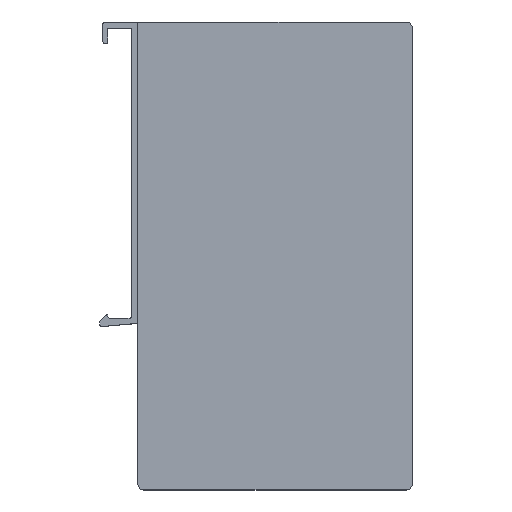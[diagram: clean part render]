
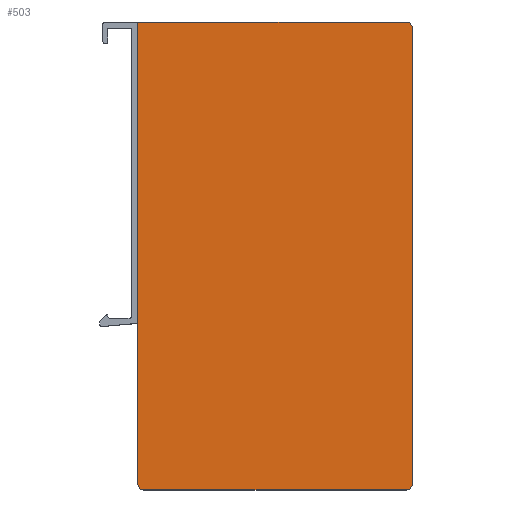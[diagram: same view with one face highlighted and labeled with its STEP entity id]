
A CAD part, top view. The second image highlights one B-rep face of the part: STEP entity #503.
In plain terms, the highlighted planar face has unit normal (0, 0, 1).
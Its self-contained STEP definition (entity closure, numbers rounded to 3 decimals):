
#40 = CARTESIAN_POINT ( 'NONE',  ( 91.999, -73.648, 2. ) ) ;
#67 = DIRECTION ( 'NONE',  ( -1., 0., 0. ) ) ;
#73 = CIRCLE ( 'NONE', #151, 2.001 ) ;
#84 = CARTESIAN_POINT ( 'NONE',  ( 2.001, 77.649, 2. ) ) ;
#95 = LINE ( 'NONE', #666, #933 ) ;
#107 = DIRECTION ( 'NONE',  ( 0., -1., 0. ) ) ;
#116 = ORIENTED_EDGE ( 'NONE', *, *, #486, .T. ) ;
#131 = AXIS2_PLACEMENT_3D ( 'NONE', #1033, #364, #833 ) ;
#133 = CARTESIAN_POINT ( 'NONE',  ( 91.999, 75.648, 2. ) ) ;
#137 = CARTESIAN_POINT ( 'NONE',  ( 2.001, -73.648, 2. ) ) ;
#151 = AXIS2_PLACEMENT_3D ( 'NONE', #1014, #338, #67 ) ;
#156 = AXIS2_PLACEMENT_3D ( 'NONE', #407, #1157, #501 ) ;
#205 = VERTEX_POINT ( 'NONE', #887 ) ;
#207 = CIRCLE ( 'NONE', #484, 2.001 ) ;
#246 = ORIENTED_EDGE ( 'NONE', *, *, #380, .T. ) ;
#248 = CARTESIAN_POINT ( 'NONE',  ( 4.002, -75.649, 2. ) ) ;
#278 = EDGE_CURVE ( 'NONE', #654, #811, #1154, .T. ) ;
#303 = EDGE_CURVE ( 'NONE', #1155, #771, #425, .T. ) ;
#307 = CARTESIAN_POINT ( 'NONE',  ( 2.001, -21.084, 2. ) ) ;
#332 = VERTEX_POINT ( 'NONE', #971 ) ;
#338 = DIRECTION ( 'NONE',  ( 0., 0., 1. ) ) ;
#364 = DIRECTION ( 'NONE',  ( 0., 0., -1. ) ) ;
#380 = EDGE_CURVE ( 'NONE', #811, #618, #73, .T. ) ;
#389 = DIRECTION ( 'NONE',  ( 0., -1., 0. ) ) ;
#405 = ORIENTED_EDGE ( 'NONE', *, *, #750, .T. ) ;
#407 = CARTESIAN_POINT ( 'NONE',  ( 89.998, -73.648, 2. ) ) ;
#416 = ORIENTED_EDGE ( 'NONE', *, *, #1039, .T. ) ;
#425 = LINE ( 'NONE', #133, #642 ) ;
#458 = CARTESIAN_POINT ( 'NONE',  ( 89.998, -75.649, 2. ) ) ;
#475 = PLANE ( 'NONE',  #131 ) ;
#484 = AXIS2_PLACEMENT_3D ( 'NONE', #827, #1211, #656 ) ;
#486 = EDGE_CURVE ( 'NONE', #205, #332, #95, .T. ) ;
#488 = CARTESIAN_POINT ( 'NONE',  ( 4.002, -75.649, 2. ) ) ;
#495 = DIRECTION ( 'NONE',  ( 0., 1., 0. ) ) ;
#499 = VERTEX_POINT ( 'NONE', #458 ) ;
#501 = DIRECTION ( 'NONE',  ( 1., 0., 0. ) ) ;
#503 = ADVANCED_FACE ( 'NONE', ( #749 ), #475, .F. ) ;
#524 = LINE ( 'NONE', #248, #1126 ) ;
#604 = VECTOR ( 'NONE', #389, 1000. ) ;
#618 = VERTEX_POINT ( 'NONE', #488 ) ;
#642 = VECTOR ( 'NONE', #495, 1000. ) ;
#654 = VERTEX_POINT ( 'NONE', #307 ) ;
#656 = DIRECTION ( 'NONE',  ( 1., 0., 0. ) ) ;
#666 = CARTESIAN_POINT ( 'NONE',  ( 2.001, 77.649, 2. ) ) ;
#745 = ORIENTED_EDGE ( 'NONE', *, *, #303, .T. ) ;
#749 = FACE_OUTER_BOUND ( 'NONE', #988, .T. ) ;
#750 = EDGE_CURVE ( 'NONE', #618, #499, #524, .T. ) ;
#771 = VERTEX_POINT ( 'NONE', #922 ) ;
#789 = ORIENTED_EDGE ( 'NONE', *, *, #278, .T. ) ;
#799 = LINE ( 'NONE', #84, #604 ) ;
#811 = VERTEX_POINT ( 'NONE', #137 ) ;
#813 = CIRCLE ( 'NONE', #156, 2.001 ) ;
#827 = CARTESIAN_POINT ( 'NONE',  ( 89.998, 75.648, 2. ) ) ;
#833 = DIRECTION ( 'NONE',  ( -1., 0., 0. ) ) ;
#840 = ORIENTED_EDGE ( 'NONE', *, *, #944, .T. ) ;
#872 = EDGE_CURVE ( 'NONE', #332, #654, #799, .T. ) ;
#887 = CARTESIAN_POINT ( 'NONE',  ( 89.998, 77.649, 2. ) ) ;
#922 = CARTESIAN_POINT ( 'NONE',  ( 91.999, 75.648, 2. ) ) ;
#933 = VECTOR ( 'NONE', #1136, 1000. ) ;
#944 = EDGE_CURVE ( 'NONE', #771, #205, #207, .T. ) ;
#971 = CARTESIAN_POINT ( 'NONE',  ( 2.001, 77.649, 2. ) ) ;
#988 = EDGE_LOOP ( 'NONE', ( #1156, #789, #246, #405, #416, #745, #840, #116 ) ) ;
#1014 = CARTESIAN_POINT ( 'NONE',  ( 4.002, -73.648, 2. ) ) ;
#1033 = CARTESIAN_POINT ( 'NONE',  ( 4.002, -73.648, 2. ) ) ;
#1039 = EDGE_CURVE ( 'NONE', #499, #1155, #813, .T. ) ;
#1075 = CARTESIAN_POINT ( 'NONE',  ( 2.001, 77.649, 2. ) ) ;
#1093 = VECTOR ( 'NONE', #107, 1000. ) ;
#1099 = DIRECTION ( 'NONE',  ( 1., 0., 0. ) ) ;
#1126 = VECTOR ( 'NONE', #1099, 1000. ) ;
#1136 = DIRECTION ( 'NONE',  ( -1., 0., 0. ) ) ;
#1154 = LINE ( 'NONE', #1075, #1093 ) ;
#1155 = VERTEX_POINT ( 'NONE', #40 ) ;
#1156 = ORIENTED_EDGE ( 'NONE', *, *, #872, .T. ) ;
#1157 = DIRECTION ( 'NONE',  ( 0., 0., 1. ) ) ;
#1211 = DIRECTION ( 'NONE',  ( 0., 0., 1. ) ) ;
